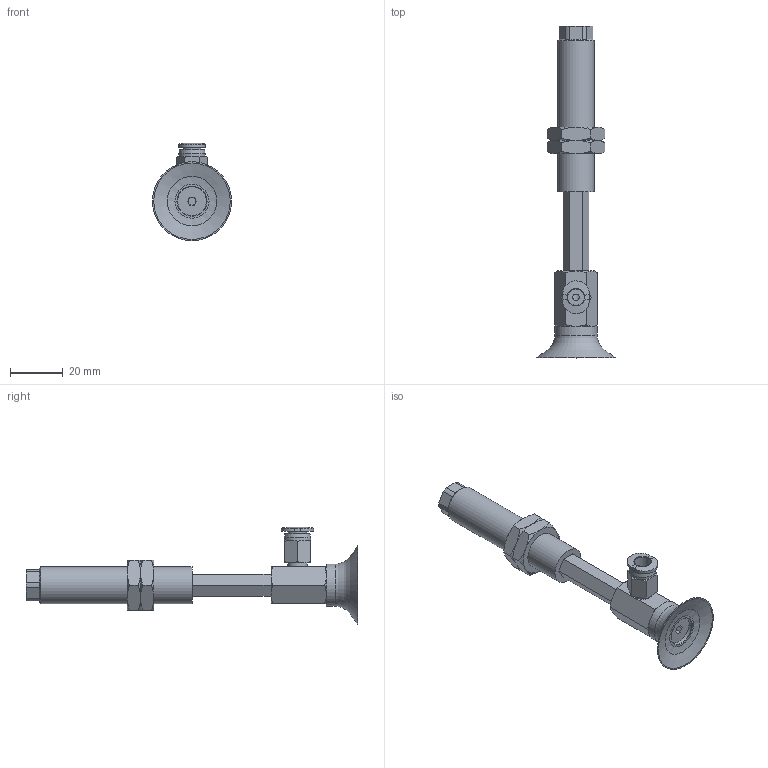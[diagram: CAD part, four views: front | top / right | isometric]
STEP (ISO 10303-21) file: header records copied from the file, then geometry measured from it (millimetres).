
FILE_DESCRIPTION(('STEP AP203'),'1');
FILE_NAME('-O.stp','2025-04-10T07:51:03',(' '),(' '),'Spatial InterOp 3D',' ',' ');
FILE_SCHEMA(('CONFIG_CONTROL_DESIGN'));
Length unit declared in the file: millimetre
Products named in the file (8): BNABPFYH-30-30-※-O; TN-PF-30-M6-NAPF; CONNECTOR-H-30-30; Nut-30-30-h; NAPFTH-30-30-FBODY; NAPFTH-30-30-MBODY; BPFG-30-※; PC-C_06-M5
Assembly tree (8 placements, depth 2):
  BNABPFYH-30-30-※-O
    TN-PF-30-M6-NAPF
    CONNECTOR-H-30-30
    Nut-30-30-h  x2
    NAPFTH-30-30-FBODY
    NAPFTH-30-30-MBODY
    BPFG-30-※
    PC-C_06-M5
Bounding box: 30 x 126 x 36.98 mm (x, y, z)
Volume: 18526.1 mm3; surface area: 15469.3 mm2
Topology: 7 solids, 10 shells, 206 faces, 436 edges, 265 vertices
Faces by surface type: plane 95, cone 67, cylinder 29, torus 7, bspline 5, revolution 3
Full cylindrical faces by diameter (mm): 3 x2, 4 x2, 4.134 x2, 4.917 x1, 5 x2, 6 x2, 7 x1, 7.4 x1, 8.2 x1, 10 x1, 11 x2, 12.917 x2, 14 x1, 16 x1
Entity records: 5575 total; most frequent: CARTESIAN_POINT 1533, DIRECTION 751, ORIENTED_EDGE 674, EDGE_CURVE 339, AXIS2_PLACEMENT_3D 307, EDGE_LOOP 258, VERTEX_POINT 233, FACE_OUTER_BOUND 151
